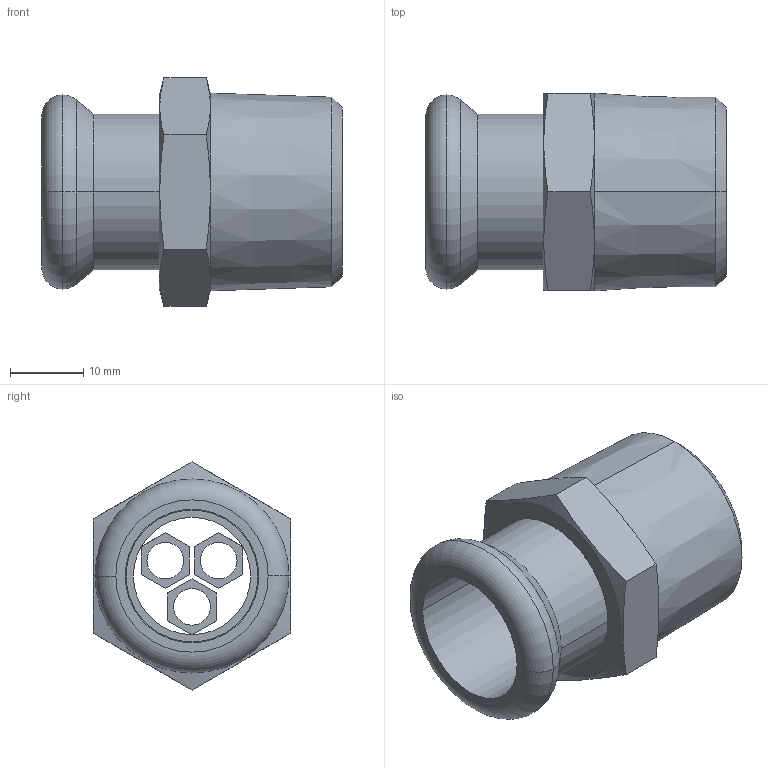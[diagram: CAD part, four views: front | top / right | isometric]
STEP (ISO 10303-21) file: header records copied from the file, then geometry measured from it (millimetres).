
FILE_DESCRIPTION(('OneSpaceDesigner STEP Export'),'2;1');
FILE_NAME('R2705 18xR3-4.stp','2010-06-09T10:37:45',(''),(''),'OneSpace Designer STEP processor for AP214 (Solid Model)','OneSpace Modeling 15.00A 14-Mar-2007 (C) CoCreate Software GmbH','');
FILE_SCHEMA(('AUTOMOTIVE_DESIGN { 1 0 10303 214 1 1 1 1 }'));
Length unit declared in the file: millimetre
Products named in the file (2): R2705_18xR3-4
Assembly tree (1 placements, depth 2):
  R2705_18xR3-4
    R2705_18xR3-4
Bounding box: 41 x 27 x 31.18 mm (x, y, z)
Volume: 9280 mm3; surface area: 7104 mm2
Topology: 1 solids, 1 shells, 78 faces, 196 edges, 127 vertices
Faces by surface type: plane 39, cylinder 19, cone 16, torus 4
Entity records: 2691 total; most frequent: CARTESIAN_POINT 958, ORIENTED_EDGE 392, DIRECTION 285, EDGE_CURVE 196, VERTEX_POINT 127, VECTOR 101, LINE 101, EDGE_LOOP 93
